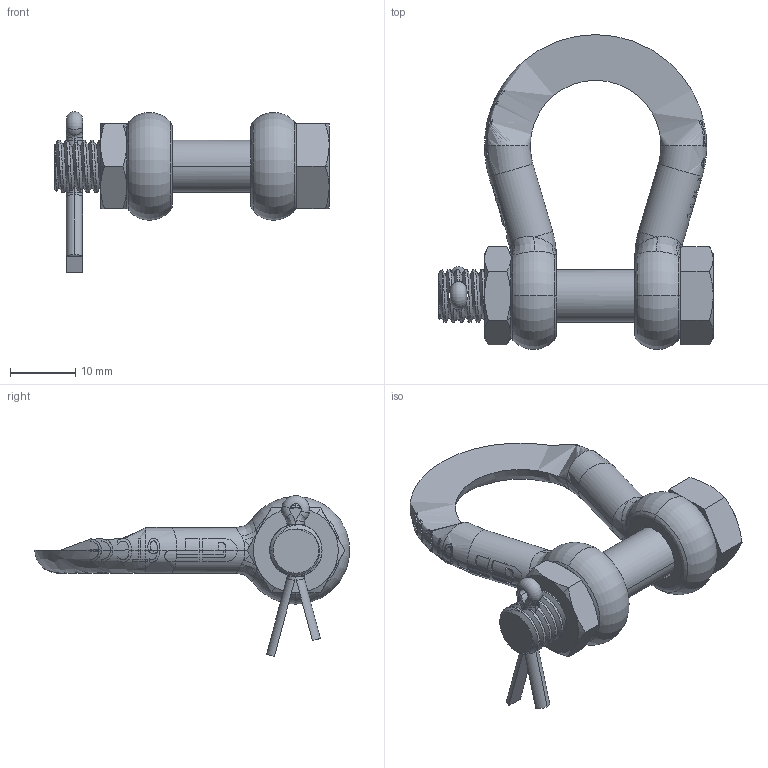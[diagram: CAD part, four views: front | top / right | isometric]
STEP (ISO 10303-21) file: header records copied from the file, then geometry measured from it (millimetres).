
FILE_DESCRIPTION(('STEP AP214'),'1');
FILE_NAME('gpghmb06.stp','2017-04-20T13:06:13',('TraceParts'),('TraceParts S.A.'),'Spatial InterOp 3D',' ',' ');
FILE_SCHEMA(('automotive_design'));
Length unit declared in the file: millimetre
Products named in the file (4): gpghmb06_1; gpghmb06_2; gpghmb06_3; gpghmb06_4
Bounding box: 42 x 48.19 x 24.63 mm (x, y, z)
Volume: 7643.6 mm3; surface area: 5557.1 mm2
Topology: 4 solids, 4 shells, 416 faces, 1139 edges, 708 vertices
Faces by surface type: bspline 176, plane 113, cylinder 89, cone 27, torus 11
Entity records: 22973 total; most frequent: CARTESIAN_POINT 14160, ORIENTED_EDGE 2232, DIRECTION 1258, EDGE_CURVE 1116, VERTEX_POINT 708, B_SPLINE_CURVE_WITH_KNOTS 483, AXIS2_PLACEMENT_3D 466, EDGE_LOOP 424
